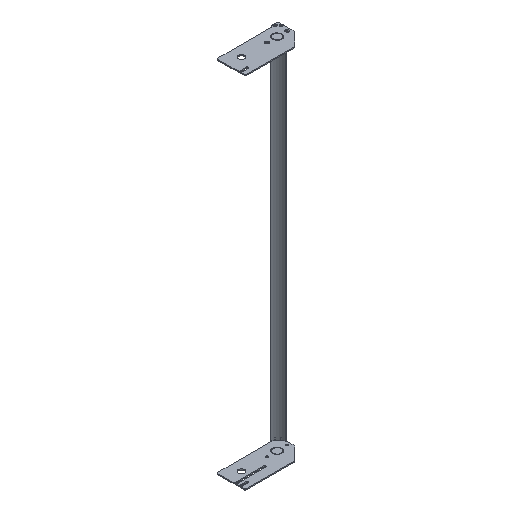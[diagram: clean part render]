
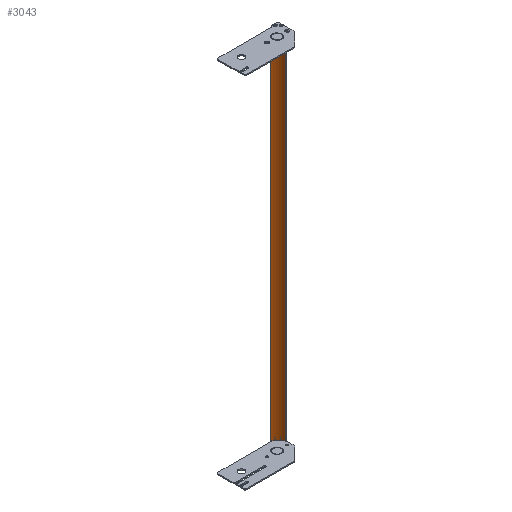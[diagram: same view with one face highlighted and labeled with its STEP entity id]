
A CAD part, isometric view. The second image highlights one B-rep face of the part: STEP entity #3043.
In plain terms, the highlighted cylindrical face has radius 40.64 mm (diameter 81.28 mm), a partial arc.
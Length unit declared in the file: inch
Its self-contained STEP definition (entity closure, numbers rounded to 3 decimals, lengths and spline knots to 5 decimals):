
#2705=CARTESIAN_POINT('',(-1.63,-1.52,-22.118));
#2706=DIRECTION('',(0.,0.,1.));
#2707=DIRECTION('',(0.946,0.325,0.));
#2708=AXIS2_PLACEMENT_3D('',#2705,#2706,#2707);
#2756=DIRECTION('',(0.,0.,1.));
#2757=VECTOR('',#2756,44.236);
#2758=CARTESIAN_POINT('',(-0.98126,-0.05742,-22.118));
#2759=LINE('',#2758,#2757);
#2775=CARTESIAN_POINT('',(-1.63,-1.52,22.118));
#2776=DIRECTION('',(0.,0.,-1.));
#2777=DIRECTION('',(0.405,0.914,0.));
#2778=AXIS2_PLACEMENT_3D('',#2775,#2776,#2777);
#2821=DIRECTION('',(0.,0.,1.));
#2822=VECTOR('',#2821,44.236);
#2823=CARTESIAN_POINT('',(-0.11675,-1.00032,-22.118));
#2824=LINE('',#2823,#2822);
#2855=CARTESIAN_POINT('',(-0.98126,-0.05742,22.118));
#2856=CARTESIAN_POINT('',(-0.11675,-1.00032,22.118));
#2857=VERTEX_POINT('',#2855);
#2858=VERTEX_POINT('',#2856);
#2873=CARTESIAN_POINT('',(-0.98126,-0.05742,-22.118));
#2874=VERTEX_POINT('',#2873);
#2883=CARTESIAN_POINT('',(-0.11675,-1.00032,-22.118));
#2884=VERTEX_POINT('',#2883);
#3032=CARTESIAN_POINT('',(-1.63,-1.52,22.118));
#3033=DIRECTION('',(0.,0.,-1.));
#3034=DIRECTION('',(-1.,0.,0.));
#3035=AXIS2_PLACEMENT_3D('',#3032,#3033,#3034);
#3036=CYLINDRICAL_SURFACE('',#3035,1.6);
#3037=ORIENTED_EDGE('',*,*,#2910,.T.);
#3038=ORIENTED_EDGE('',*,*,#2956,.T.);
#3039=ORIENTED_EDGE('',*,*,#2976,.T.);
#3040=ORIENTED_EDGE('',*,*,#3025,.F.);
#3041=EDGE_LOOP('',(#3037,#3038,#3039,#3040));
#3042=FACE_OUTER_BOUND('',#3041,.F.);
#2709=CIRCLE('',#2708,1.6);
#2779=CIRCLE('',#2778,1.6);
#2910=EDGE_CURVE('',#2884,#2874,#2709,.T.);
#2956=EDGE_CURVE('',#2874,#2857,#2759,.T.);
#2976=EDGE_CURVE('',#2857,#2858,#2779,.T.);
#3025=EDGE_CURVE('',#2884,#2858,#2824,.T.);
#3043=ADVANCED_FACE('',(#3042),#3036,.F.);
